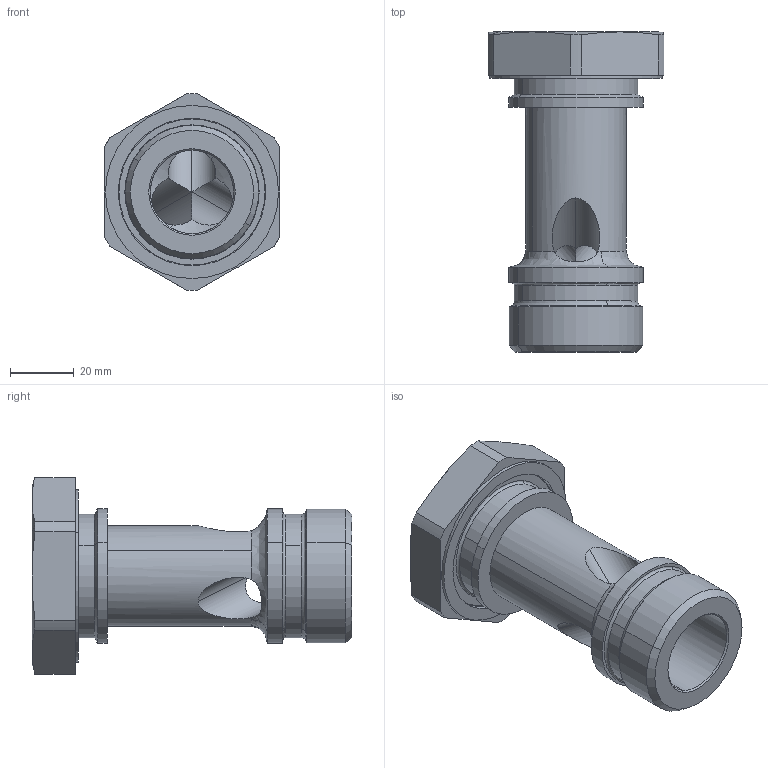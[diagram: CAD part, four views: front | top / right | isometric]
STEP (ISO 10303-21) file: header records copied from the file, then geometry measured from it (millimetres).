
FILE_DESCRIPTION((''),'2;1');
FILE_NAME('108107.0.stp','2007-11-06T08:30:21',(''),(''),'AutoCAD STEP 2000i','AutoCAD 2000i',', , ');
FILE_SCHEMA(('CONFIG_CONTROL_DESIGN'));
Length unit declared in the file: millimetre
Products named in the file (2): 108107.0; 1081#0
Assembly tree (1 placements, depth 2):
  108107.0
    1081#0
Bounding box: 55 x 100 x 61.49 mm (x, y, z)
Volume: 100628.5 mm3; surface area: 21709.9 mm2
Topology: 1 solids, 1 shells, 77 faces, 210 edges, 134 vertices
Faces by surface type: cylinder 30, cone 23, plane 14, bspline 10
Entity records: 3356 total; most frequent: CARTESIAN_POINT 1344, ORIENTED_EDGE 416, DIRECTION 406, EDGE_CURVE 208, AXIS2_PLACEMENT_3D 175, VERTEX_POINT 134, CIRCLE 103, EDGE_LOOP 84
